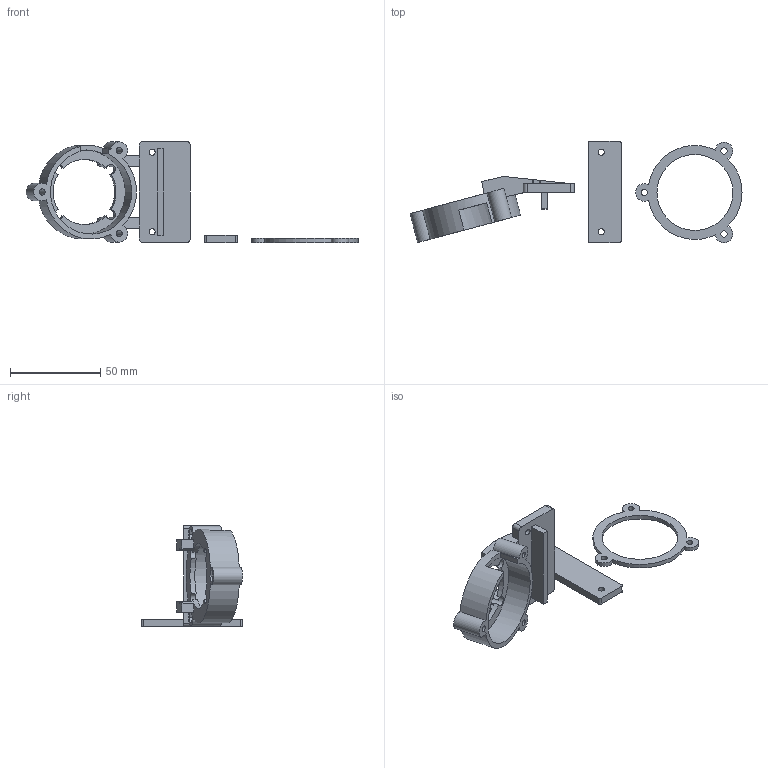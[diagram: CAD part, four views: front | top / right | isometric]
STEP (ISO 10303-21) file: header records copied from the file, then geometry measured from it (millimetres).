
FILE_DESCRIPTION(('Open CASCADE Model'),'2;1');
FILE_NAME('Open CASCADE Shape Model','2026-09-09T11:39:50',('Author'),( 'Open CASCADE'),'Open CASCADE STEP processor 7.9','Open CASCADE 7.9' ,'Unknown');
FILE_SCHEMA(('AUTOMOTIVE_DESIGN { 1 0 10303 214 1 1 1 1 }'));
Length unit declared in the file: millimetre
Products named in the file (4): Open CASCADE STEP translator 7.9 4; Open CASCADE STEP translator 7.9 4.1; Open CASCADE STEP translator 7.9 4.2; Open CASCADE STEP translator 7.9 4.3
Assembly tree (3 placements, depth 2):
  Open CASCADE STEP translator 7.9 4
    Open CASCADE STEP translator 7.9 4.1
    Open CASCADE STEP translator 7.9 4.2
    Open CASCADE STEP translator 7.9 4.3
Bounding box: 183.48 x 56 x 56 mm (x, y, z)
Volume: 28054 mm3; surface area: 19708.2 mm2
Topology: 3 solids, 3 shells, 121 faces, 338 edges, 224 vertices
Faces by surface type: plane 81, cylinder 40
Full cylindrical faces by diameter (mm): 3.4 x10, 42 x1, 46.5 x1
Entity records: 8618 total; most frequent: CARTESIAN_POINT 1777, DIRECTION 1292, LINE 808, VECTOR 808, ORIENTED_EDGE 676, PCURVE 676, DEFINITIONAL_REPRESENTATION 676, EDGE_CURVE 338
